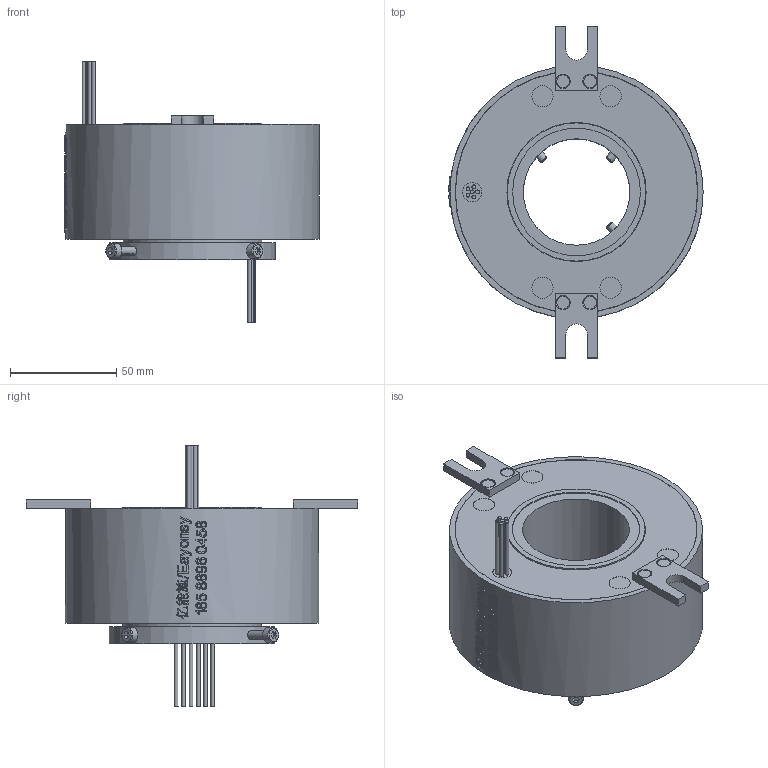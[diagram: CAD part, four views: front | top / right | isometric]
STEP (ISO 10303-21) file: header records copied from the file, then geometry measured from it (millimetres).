
FILE_DESCRIPTION(/* description */ (''),/* implementation_level */ '2;1');
FILE_NAME(/* name */ 'YDS50119-0610-3D模型.stp',/* time_stamp */ '2025-09-03T16:50:28+08:00',/* author */ (''),/* organization */ (''),/* preprocessor_version */ 'ST-DEVELOPER v16.7',/* originating_system */ 'SIEMENS PLM Software NX 12.0',/* authorisation */ '');
FILE_SCHEMA (('AUTOMOTIVE_DESIGN { 1 0 10303 214 3 1 1 1 }'));
Length unit declared in the file: millimetre
Products named in the file (1): Admi1DD8882Fzn24
Bounding box: 119.5 x 156 x 123.1 mm (x, y, z)
Volume: 524484 mm3; surface area: 61585.6 mm2
Topology: 1 solids, 5 shells, 910 faces, 2416 edges, 1607 vertices
Faces by surface type: extrusion 452, plane 331, cylinder 78, bspline 33, cone 12, torus 4
Full cylindrical faces by diameter (mm): 1.8 x12, 3 x4, 3.4 x1, 3.5 x4, 4 x7, 6 x4, 7 x4, 9 x1, 10 x4, 50 x1, 60 x1, 65 x2, 65.4 x1, 69.8 x1, 70 x1, 78 x1, 113.8 x2, 114 x2, 119 x1
Entity records: 35952 total; most frequent: CARTESIAN_POINT 16982, ORIENTED_EDGE 4644, EDGE_CURVE 2322, B_SPLINE_CURVE_WITH_KNOTS 2203, DIRECTION 2164, VERTEX_POINT 1583, EDGE_LOOP 1085, ADVANCED_FACE 910
